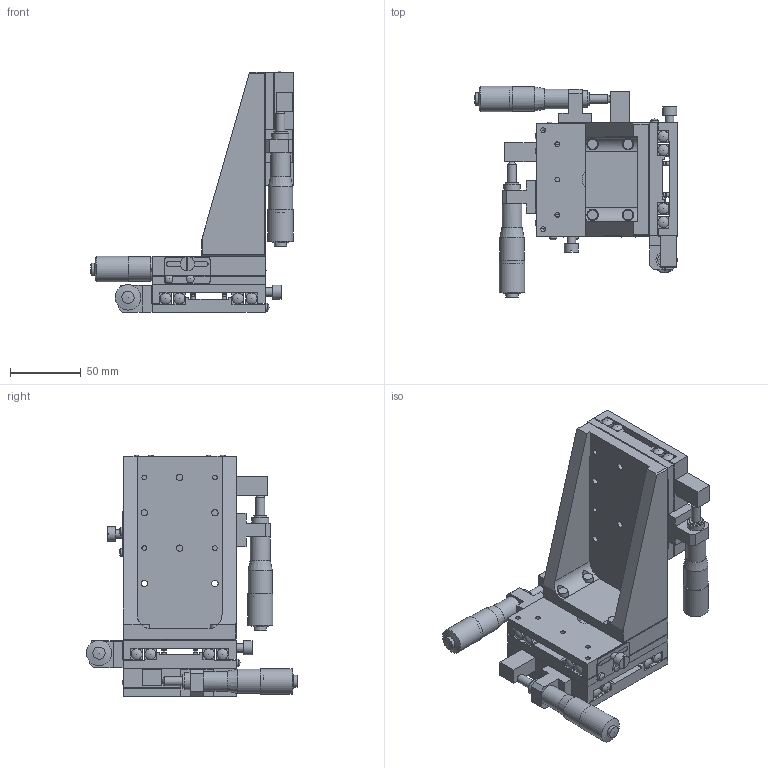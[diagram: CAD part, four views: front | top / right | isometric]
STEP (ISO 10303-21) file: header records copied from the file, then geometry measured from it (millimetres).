
FILE_DESCRIPTION( ( 'STEP AP203' ), '1' );
FILE_NAME( 'C:/3D-Trans/3D_B71-80C+090217.step', '2009-02-17T06:58:29', ( ' ' ), ( ' ' ), 'XStep 1.0', ' ', ' ' );
FILE_SCHEMA( ( 'CONFIG_CONTROL_DESIGN' ) );
Length unit declared in the file: millimetre
Products named in the file (10): 1; 2; 3; 4; 5; 6; 7; 8; 9; 10
Bounding box: 143.5 x 149.49 x 170.6 mm (x, y, z)
Volume: 542594.6 mm3; surface area: 189444.5 mm2
Topology: 10 solids, 13 shells, 747 faces, 1944 edges, 1283 vertices
Faces by surface type: plane 476, cylinder 214, sphere 36, cone 21
Full cylindrical faces by diameter (mm): 2 x12, 3 x27, 3.3 x40, 4.5 x10, 5.6 x6, 6 x3, 6.35 x6, 7 x4, 7.5 x3, 7.8 x24, 8 x11, 8.6 x3, 9.5 x6, 10 x6, 12 x6, 14 x3, 15 x3, 16.8 x3, 17.2 x3, 18 x3
Entity records: 20942 total; most frequent: CARTESIAN_POINT 3827, DIRECTION 3464, ORIENTED_EDGE 3014, EDGE_CURVE 1507, AXIS2_PLACEMENT_3D 1216, EDGE_LOOP 1146, VERTEX_POINT 1103, LINE 1032
